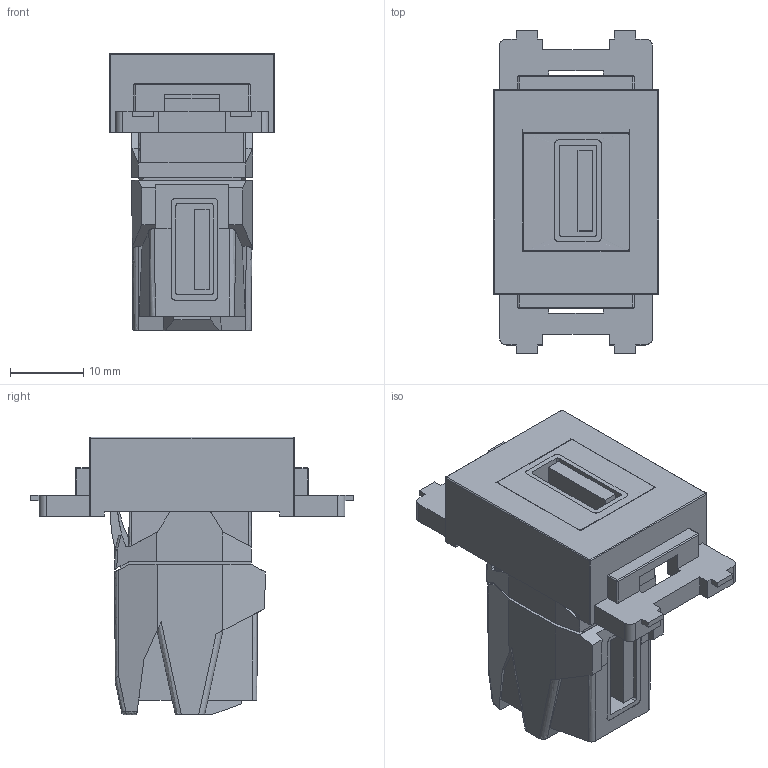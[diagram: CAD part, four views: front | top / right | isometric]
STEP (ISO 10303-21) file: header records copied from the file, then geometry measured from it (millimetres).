
FILE_DESCRIPTION(('FreeCAD Model'),'2;1');
FILE_NAME('Open CASCADE Shape Model','2026-05-12T10:13:17',(''),(''), 'Open CASCADE STEP processor 7.8','FreeCAD','Unknown');
FILE_SCHEMA(('AUTOMOTIVE_DESIGN { 1 0 10303 214 1 1 1 1 }'));
Length unit declared in the file: millimetre
Products named in the file (3): CC_LUSBA_XX_KV; SY-NWT-KV-xx; 210USB07N2WH
Assembly tree (2 placements, depth 2):
  CC_LUSBA_XX_KV
    SY-NWT-KV-xx
    210USB07N2WH
Bounding box: 22.65 x 44.3 x 38 mm (x, y, z)
Volume: 13136.7 mm3; surface area: 8974.5 mm2
Topology: 2 solids, 2 shells, 314 faces, 881 edges, 574 vertices
Faces by surface type: bspline 314
Entity records: 14329 total; most frequent: CARTESIAN_POINT 8961, ORIENTED_EDGE 1762, EDGE_CURVE 881, B_SPLINE_CURVE_WITH_KNOTS 881, VERTEX_POINT 574, FACE_BOUND 323, EDGE_LOOP 323, ADVANCED_FACE 314
